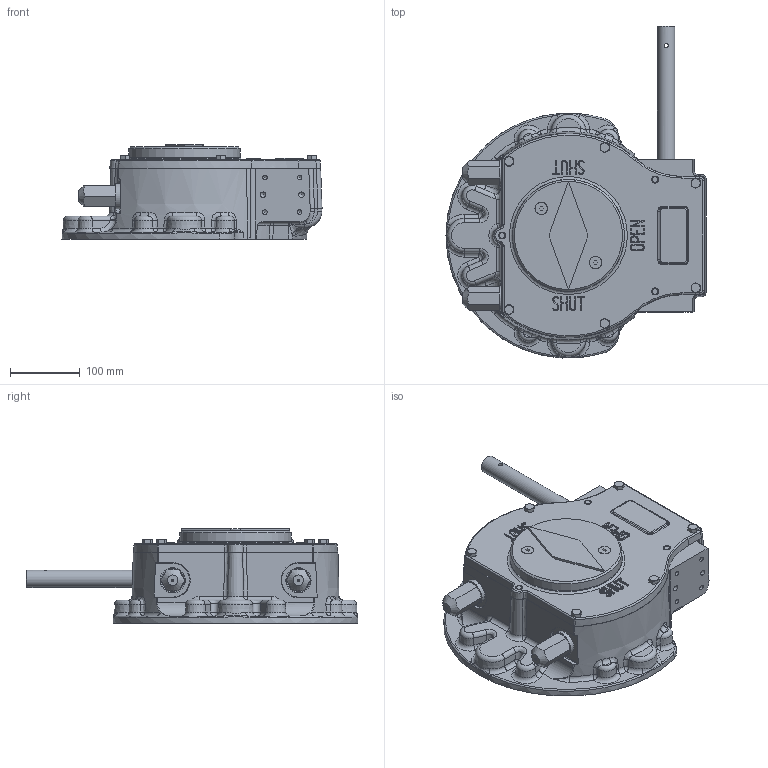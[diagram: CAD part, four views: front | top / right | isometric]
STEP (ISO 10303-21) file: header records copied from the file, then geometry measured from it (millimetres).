
FILE_DESCRIPTION( ( 'Unknown' ), '1' );
FILE_NAME( 'M:/Current Drawings/Internet datasheets/4 - STEP/AB3000W LB LH.stp', 'Unknown', ( 'Unknown' ), ( 'Unknown' ), 'PSStep 15.0.49', 'Unknown', ' ' );
FILE_SCHEMA( ( 'AUTOMOTIVE_DESIGN { 1 0 10303 214 1 1 1 1 }' ) );
Length unit declared in the file: millimetre
Products named in the file (1): 600PAP2528300
Bounding box: 372.35 x 475.17 x 135 mm (x, y, z)
Volume: 6484525.9 mm3; surface area: 701294.5 mm2
Topology: 1 solids, 30 shells, 1495 faces, 3693 edges, 2198 vertices
Faces by surface type: plane 382, cylinder 295, bspline 254, cone 248, torus 198, sphere 88, extrusion 30
Full cylindrical faces by diameter (mm): 6 x1, 6.647 x32, 7 x4, 8 x12, 8.376 x4, 8.5 x6, 9 x2, 10 x6, 17.294 x2, 20 x2, 25 x4, 26 x1, 28 x2, 30 x2, 35 x2, 36 x2, 38 x2, 47 x2, 125.95 x2, 130 x6, 135 x1, 146 x1, 151.6 x1, 160 x1
Entity records: 89782 total; most frequent: CARTESIAN_POINT 46843, ORIENTED_EDGE 6536, DIRECTION 5951, EDGE_CURVE 3268, AXIS2_PLACEMENT_3D 2576, VERTEX_POINT 2112, EDGE_LOOP 1785, FACE_OUTER_BOUND 1632
